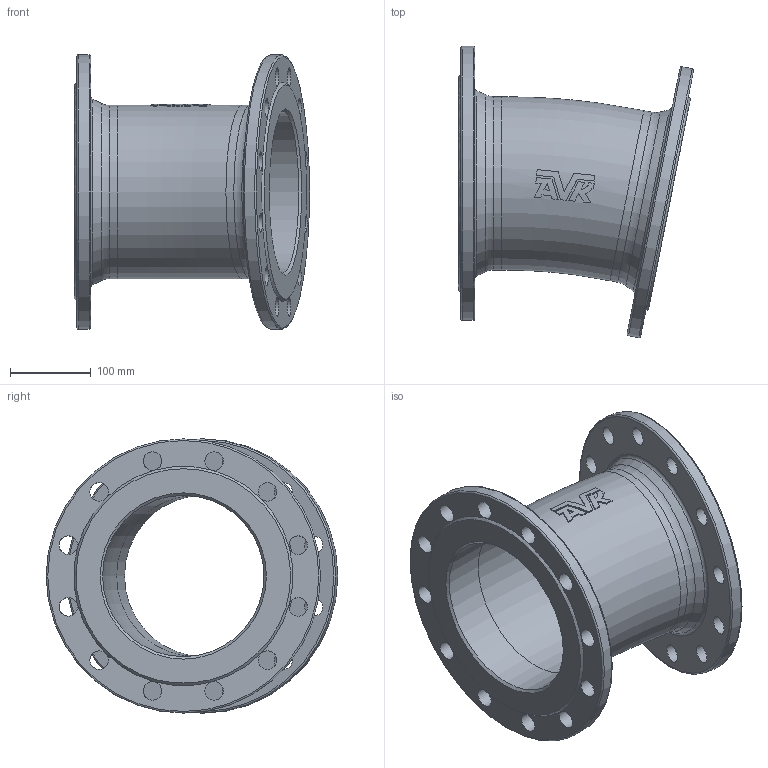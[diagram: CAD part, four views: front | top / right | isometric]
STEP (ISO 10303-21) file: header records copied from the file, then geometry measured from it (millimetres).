
FILE_DESCRIPTION (( 'STEP AP203' ), '1' );
FILE_NAME ('O_712_0110_DN200_1X_REV01.step', '2024-08-15T08:44:05', ( '' ), ( '' ), 'SwSTEP 2.0', 'SolidWorks 2022', '' );
FILE_SCHEMA (( 'CONFIG_CONTROL_DESIGN' ));
Length unit declared in the file: millimetre
Products named in the file (1): O_712_0110_DN200_1X_REV01
Bounding box: 291.33 x 361.54 x 340 mm (x, y, z)
Volume: 3200548.4 mm3; surface area: 577559.1 mm2
Topology: 1 solids, 1 shells, 93 faces, 288 edges, 181 vertices
Faces by surface type: plane 41, cylinder 32, torus 14, cone 6
Full cylindrical faces by diameter (mm): 23 x24, 200 x2, 215 x2, 340 x2
Entity records: 3000 total; most frequent: CARTESIAN_POINT 753, DIRECTION 421, ORIENTED_EDGE 418, EDGE_CURVE 209, AXIS2_PLACEMENT_3D 192, EDGE_LOOP 173, VERTEX_POINT 148, FACE_OUTER_BOUND 133
